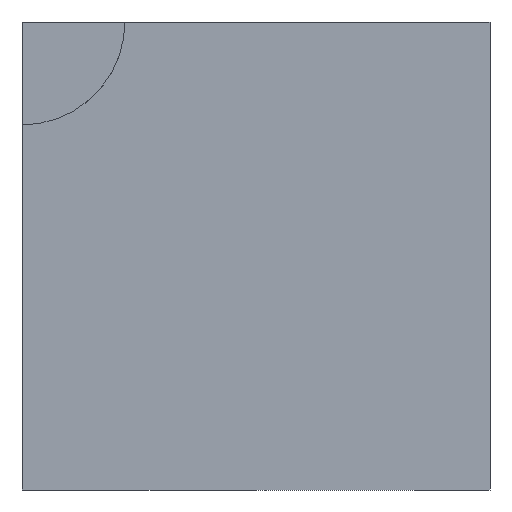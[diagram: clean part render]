
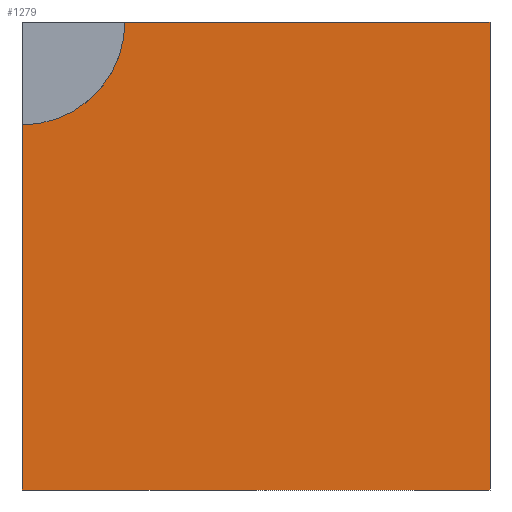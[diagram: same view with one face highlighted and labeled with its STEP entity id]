
A CAD part, left-side view. The second image highlights one B-rep face of the part: STEP entity #1279.
In plain terms, the highlighted planar face has unit normal (-1, 0, 0).
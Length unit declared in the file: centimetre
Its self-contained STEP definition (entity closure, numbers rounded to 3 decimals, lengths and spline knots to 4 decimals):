
#16 = EDGE_CURVE ( 'NONE', #563, #1088, #617, .T. ) ;
#41 = AXIS2_PLACEMENT_3D ( 'NONE', #726, #1234, #1144 ) ;
#50 = VECTOR ( 'NONE', #606, 100. ) ;
#56 = DIRECTION ( 'NONE',  ( -1., 0., 0. ) ) ;
#66 = EDGE_CURVE ( 'NONE', #1217, #373, #86, .T. ) ;
#69 = LINE ( 'NONE', #908, #50 ) ;
#78 = DIRECTION ( 'NONE',  ( 0., 0., -1. ) ) ;
#86 = LINE ( 'NONE', #507, #871 ) ;
#95 = CARTESIAN_POINT ( 'NONE',  ( 0., 0., 0. ) ) ;
#184 = VERTEX_POINT ( 'NONE', #1043 ) ;
#228 = EDGE_CURVE ( 'NONE', #563, #184, #277, .T. ) ;
#253 = AXIS2_PLACEMENT_3D ( 'NONE', #439, #56, #991 ) ;
#277 = CIRCLE ( 'NONE', #253, 219.9293 ) ;
#373 = VERTEX_POINT ( 'NONE', #95 ) ;
#432 = ORIENTED_EDGE ( 'NONE', *, *, #228, .F. ) ;
#439 = CARTESIAN_POINT ( 'NONE',  ( 0., 1000., 1000. ) ) ;
#507 = CARTESIAN_POINT ( 'NONE',  ( 0., 0., 1000. ) ) ;
#563 = VERTEX_POINT ( 'NONE', #801 ) ;
#606 = DIRECTION ( 'NONE',  ( 0., -1., 0. ) ) ;
#607 = ORIENTED_EDGE ( 'NONE', *, *, #16, .T. ) ;
#617 = LINE ( 'NONE', #998, #997 ) ;
#716 = EDGE_CURVE ( 'NONE', #184, #1217, #1181, .T. ) ;
#724 = ORIENTED_EDGE ( 'NONE', *, *, #716, .F. ) ;
#726 = CARTESIAN_POINT ( 'NONE',  ( 0., 1000., 1000. ) ) ;
#728 = ORIENTED_EDGE ( 'NONE', *, *, #66, .F. ) ;
#731 = FACE_OUTER_BOUND ( 'NONE', #1329, .T. ) ;
#801 = CARTESIAN_POINT ( 'NONE',  ( 0., 1000., 780.0707 ) ) ;
#819 = PLANE ( 'NONE',  #41 ) ;
#871 = VECTOR ( 'NONE', #1228, 100. ) ;
#885 = CARTESIAN_POINT ( 'NONE',  ( 0., 1000., 0. ) ) ;
#908 = CARTESIAN_POINT ( 'NONE',  ( 0., 1000., 0. ) ) ;
#991 = DIRECTION ( 'NONE',  ( 0., 0., 1. ) ) ;
#997 = VECTOR ( 'NONE', #78, 100. ) ;
#998 = CARTESIAN_POINT ( 'NONE',  ( 0., 1000., 1000. ) ) ;
#1037 = CARTESIAN_POINT ( 'NONE',  ( 0., 1000., 1000. ) ) ;
#1043 = CARTESIAN_POINT ( 'NONE',  ( 0., 780.0707, 1000. ) ) ;
#1088 = VERTEX_POINT ( 'NONE', #885 ) ;
#1144 = DIRECTION ( 'NONE',  ( 0., 0., -1. ) ) ;
#1170 = DIRECTION ( 'NONE',  ( 0., -1., 0. ) ) ;
#1181 = LINE ( 'NONE', #1037, #1292 ) ;
#1207 = ORIENTED_EDGE ( 'NONE', *, *, #1229, .T. ) ;
#1217 = VERTEX_POINT ( 'NONE', #1251 ) ;
#1228 = DIRECTION ( 'NONE',  ( 0., 0., -1. ) ) ;
#1229 = EDGE_CURVE ( 'NONE', #1088, #373, #69, .T. ) ;
#1234 = DIRECTION ( 'NONE',  ( 1., 0., 0. ) ) ;
#1251 = CARTESIAN_POINT ( 'NONE',  ( 0., 0., 1000. ) ) ;
#1279 = ADVANCED_FACE ( 'NONE', ( #731 ), #819, .F. ) ;
#1292 = VECTOR ( 'NONE', #1170, 100. ) ;
#1329 = EDGE_LOOP ( 'NONE', ( #724, #432, #607, #1207, #728 ) ) ;
